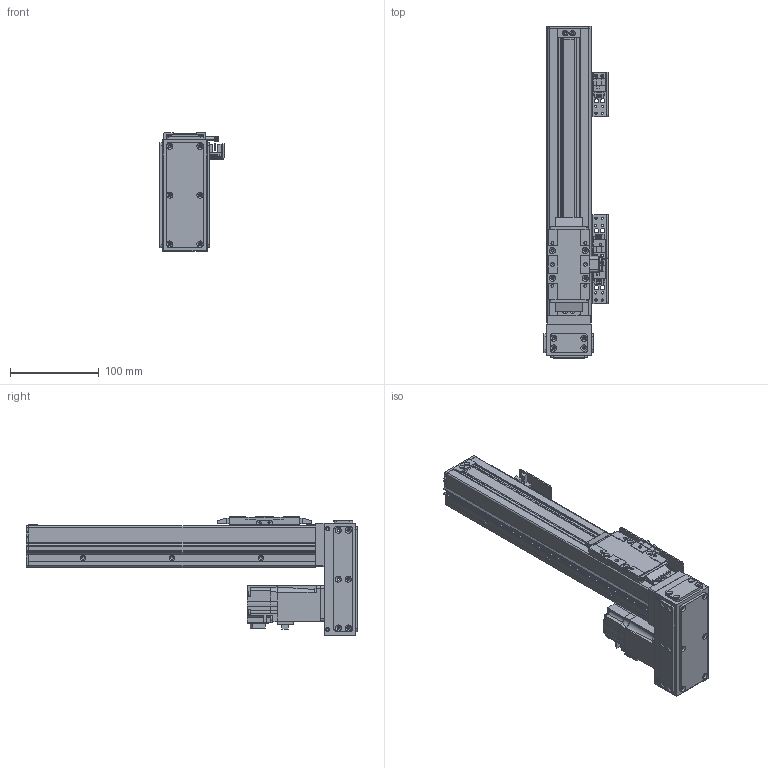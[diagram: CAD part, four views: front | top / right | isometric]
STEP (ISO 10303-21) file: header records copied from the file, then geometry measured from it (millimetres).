
FILE_DESCRIPTION(/* description */ (''),/* implementation_level */ '2;1');
FILE_NAME(/* name */ '\\192.168.0.160\disk1\HAN SHIN Master\B-설계부문\C-표준\B-2024년\BC02-표준도면\+로봇 개선표준도면\홈페이지 표준 도면\홈페이지 최종 작업 폴더\3D\HC\HC50-D10-N-0200-R10.stp',/* time_stamp */ '2025-01-17T15:13:31+09:00',/* author */ ('user'),/* organization */ (''),/* preprocessor_version */ 'ST-DEVELOPER v18.1',/* originating_system */ 'Autodesk Inventor 2022',/* authorisation */ '');
FILE_SCHEMA (('AUTOMOTIVE_DESIGN { 1 0 10303 214 3 1 1 }'));
Length unit declared in the file: millimetre
Products named in the file (27): HC50-D10-N-0200-R10 (높이 변경); HC50 BASE-R1; HC50 REAR BLOCK; HR45 FRONT BLOCK; SENSOR DOG BRK; HC50 SENSOR DOG; ISO 4762 - M3 x 16; HC45 UPCOVER; HC75,90 SHEET PLATE; HC45, HC65 STOPPER; HC50 REAR COVER-R3; SENSOR BRK(EE-SX674A); EE_SX674A; ESF1210 NUT; HC50SIDECOVER000; HC50 TABLE (서버리 테이프); HC75 TABLE COVER; HC45 TABLE SIDE COVER; MAGNET(∅10X3); hg-kr13_; HC50 DS; HC50 D MOTOR PLATE; HR45 MOTOR PLATE 100W; HC50 D BELT COVER; HR45 ACRYL COVER(정면); HR45 ACRYL COVER(상하면); HR45 ACRYL COVER(측면)
Assembly tree (38 placements, depth 3):
  HC50-D10-N-0200-R10 (높이 변경)
    HC50 BASE-R1
    HC50 REAR BLOCK
    HR45 FRONT BLOCK
    SENSOR BRK(EE-SX674A)  x3
    EE_SX674A  x3
    SENSOR DOG BRK
    HC50 SENSOR DOG
    ISO 4762 - M3 x 16  x2
    HC45 UPCOVER
    HC75,90 SHEET PLATE  x2
    HC45, HC65 STOPPER  x2
    MAGNET(∅10X3)  x3
    HC50 REAR COVER-R3
    ESF1210 NUT
    HC50SIDECOVER000  x2
    HC45 TABLE SIDE COVER  x2
    HC50 TABLE (서버리 테이프)
    HC75 TABLE COVER
    hg-kr13_
    HC50 DS
      HC50 D MOTOR PLATE
      HR45 MOTOR PLATE 100W
      HC50 D BELT COVER
      HR45 ACRYL COVER(정면)
      HR45 ACRYL COVER(상하면)
      HR45 ACRYL COVER(측면)  x2
Bounding box: 72 x 373 x 133 mm (x, y, z)
Volume: 549599.4 mm3; surface area: 345223.8 mm2
Topology: 39 solids, 39 shells, 1561 faces, 4173 edges, 2736 vertices
Faces by surface type: plane 850, cylinder 595, cone 103, bspline 9, torus 4
Full cylindrical faces by diameter (mm): 2.013 x4, 2.459 x91, 3 x2, 3.242 x22, 3.4 x34, 3.5 x40, 4 x8, 4.5 x16, 5 x16, 5.5 x2, 5.6 x2, 5.9 x2, 6 x17, 6.5 x2, 8 x1, 9 x2, 10 x4, 10.5 x3, 12 x1, 15 x3, 18 x1, 21 x2, 22 x2, 24 x1, 24.5 x1, 26 x1, 30 x2
Entity records: 40317 total; most frequent: CARTESIAN_POINT 7747, DIRECTION 6637, ORIENTED_EDGE 6372, EDGE_CURVE 3186, AXIS2_PLACEMENT_3D 2264, VERTEX_POINT 2113, LINE 2109, VECTOR 2109
